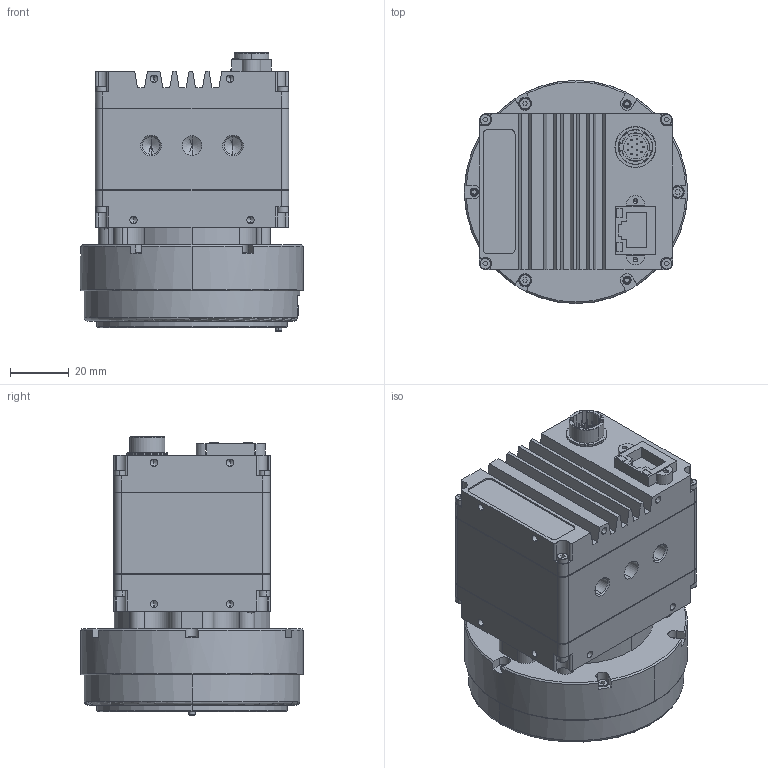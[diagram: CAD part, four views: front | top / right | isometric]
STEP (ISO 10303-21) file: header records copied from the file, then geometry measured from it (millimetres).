
FILE_DESCRIPTION (( 'STEP AP214' ), '1' );
FILE_NAME ('GT6600C PA EF-MOUNT.STEP', '2016-01-23T00:50:41', ( '' ), ( '' ), 'SwSTEP 2.0', 'SolidWorks 2015', '' );
FILE_SCHEMA (( 'AUTOMOTIVE_DESIGN' ));
Length unit declared in the file: millimetre
Products named in the file (7): GTLF BODY ASSY - defeatured_GT6600; IR CUT FILTER - defeatured; GTLF PA FRONT ASSY - defeatured; GT6600C PA EF-MOUNT; CANON EF FRONT ASSY - defeatured; FILTER HOLDER - defeatured; PA IR CUT FILTER ASSY - defeatured
Assembly tree (7 placements, depth 3):
  GT6600C PA EF-MOUNT
    GTLF BODY ASSY - defeatured_GT6600
    GTLF PA FRONT ASSY - defeatured
    PA IR CUT FILTER ASSY - defeatured
      FILTER HOLDER - defeatured  x2
      IR CUT FILTER - defeatured
    CANON EF FRONT ASSY - defeatured
Bounding box: 76.2 x 76.2 x 95.1 mm (x, y, z)
Volume: 195225.9 mm3; surface area: 78166.2 mm2
Topology: 5 solids, 36 shells, 1426 faces, 3942 edges, 2560 vertices
Faces by surface type: cylinder 569, plane 519, cone 200, bspline 63, torus 49, sphere 26
Entity records: 64898 total; most frequent: CARTESIAN_POINT 25850, DIRECTION 7602, ORIENTED_EDGE 6833, EDGE_CURVE 3611, AXIS2_PLACEMENT_3D 2915, VERTEX_POINT 2420, LINE 1772, VECTOR 1772
